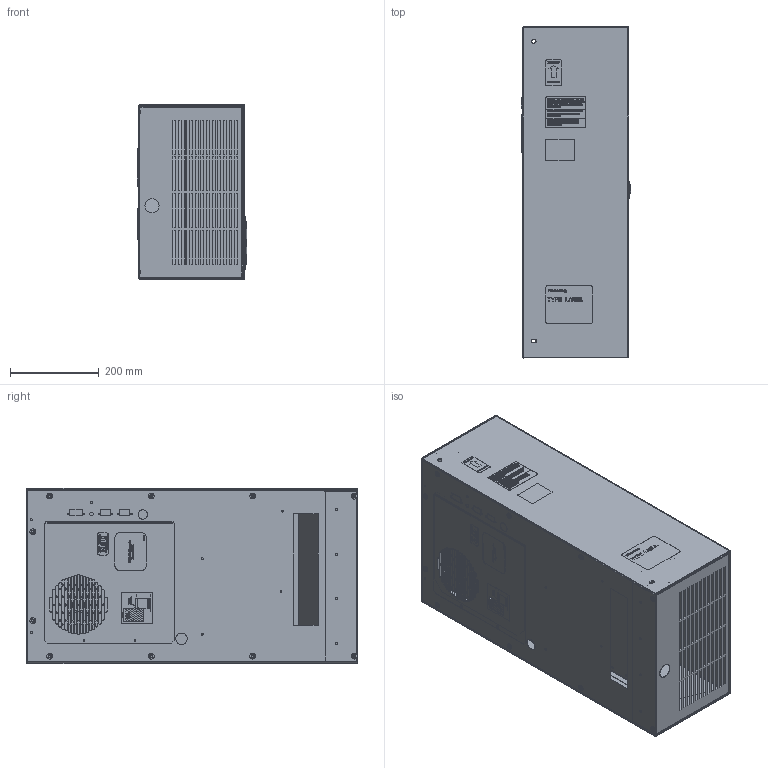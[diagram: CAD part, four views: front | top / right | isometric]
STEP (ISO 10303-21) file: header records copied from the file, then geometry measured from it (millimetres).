
FILE_DESCRIPTION (( 'STEP AP203' ), '1' );
FILE_NAME ('DTS 3141.STEP', '2017-11-29T14:37:33', ( '' ), ( '' ), 'SwSTEP 2.0', 'SolidWorks 2015', '' );
FILE_SCHEMA (( 'CONFIG_CONTROL_DESIGN' ));
Length unit declared in the file: millimetre
Products named in the file (14): 885000008; 30099-051_802005048; 085110180; 30099-052_802005053; 885000091_885000091; 020140030_020140030; 015080031; 30099-050_802002074; 30099-053_802005052; 085110150; DTS 3141; US-085110130_085110130; 085110140; 885000105_885000105
Assembly tree (22 placements, depth 2):
  DTS 3141
    30099-051_802005048
    30099-052_802005053
    020140030_020140030  x10
    30099-050_802002074
    085110150
    US-085110130_085110130
    085110140
    885000105_885000105
    885000008
    085110180
    885000091_885000091
    015080031
    30099-053_802005052
Bounding box: 246.52 x 746.69 x 395.51 mm (x, y, z)
Volume: 1862059.7 mm3; surface area: 3327262.3 mm2
Topology: 54 solids, 54 shells, 9183 faces, 24661 edges, 16330 vertices
Faces by surface type: plane 5373, bspline 2717, cylinder 983, cone 110
Entity records: 465072 total; most frequent: CARTESIAN_POINT 260930, ORIENTED_EDGE 46928, DIRECTION 31469, EDGE_CURVE 23464, LINE 16245, VECTOR 16245, VERTEX_POINT 15556, EDGE_LOOP 10094
